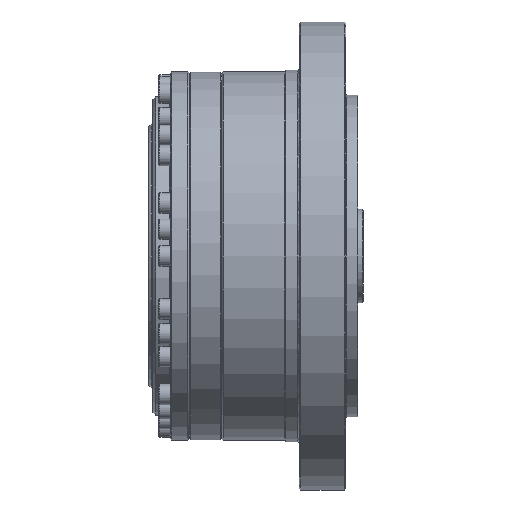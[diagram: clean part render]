
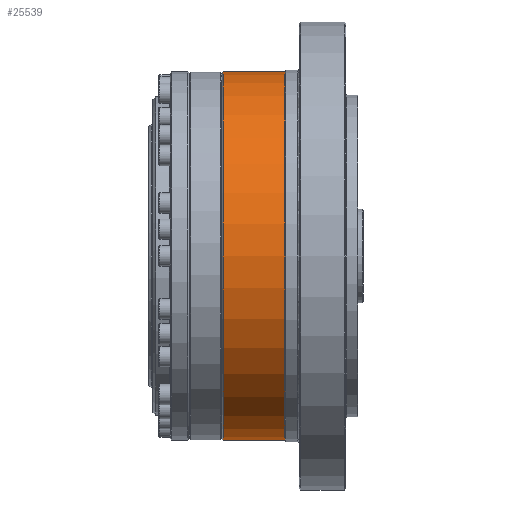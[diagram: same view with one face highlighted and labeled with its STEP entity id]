
A CAD part, front view. The second image highlights one B-rep face of the part: STEP entity #25539.
In plain terms, the highlighted cylindrical face has radius 63 mm (diameter 126 mm), a full revolution.
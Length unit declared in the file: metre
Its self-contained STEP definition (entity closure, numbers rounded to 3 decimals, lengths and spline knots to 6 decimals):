
#1128 = AXIS2_PLACEMENT_3D ( 'NONE', #17874, #2276, #28048 ) ;
#2276 = DIRECTION ( 'NONE',  ( 1., 0., 0. ) ) ;
#9605 = AXIS2_PLACEMENT_3D ( 'NONE', #18369, #15223, #28122 ) ;
#10054 = FACE_OUTER_BOUND ( 'NONE', #13665, .T. ) ;
#12770 = ORIENTED_EDGE ( 'NONE', *, *, #17723, .T. ) ;
#13665 = EDGE_LOOP ( 'NONE', ( #16047 ) ) ;
#14253 = DIRECTION ( 'NONE',  ( 0., 0., 1. ) ) ;
#15223 = DIRECTION ( 'NONE',  ( 1., 0., 0. ) ) ;
#16047 = ORIENTED_EDGE ( 'NONE', *, *, #35886, .F. ) ;
#16093 = EDGE_LOOP ( 'NONE', ( #12770 ) ) ;
#16195 = CARTESIAN_POINT ( 'NONE',  ( 0.0027, 0., -0.063 ) ) ;
#16597 = VERTEX_POINT ( 'NONE', #16195 ) ;
#17723 = EDGE_CURVE ( 'NONE', #32644, #32644, #19950, .T. ) ;
#17874 = CARTESIAN_POINT ( 'NONE',  ( -0.0183, 0., 0. ) ) ;
#18369 = CARTESIAN_POINT ( 'NONE',  ( 0.0027, 0., 0. ) ) ;
#19950 = CIRCLE ( 'NONE', #1128, 0.063 ) ;
#21040 = CIRCLE ( 'NONE', #9605, 0.063 ) ;
#23338 = FACE_OUTER_BOUND ( 'NONE', #16093, .T. ) ;
#25539 = ADVANCED_FACE ( 'NONE', ( #23338, #10054 ), #32672, .T. ) ;
#26674 = AXIS2_PLACEMENT_3D ( 'NONE', #29912, #30333, #14253 ) ;
#28048 = DIRECTION ( 'NONE',  ( 0., 0., 1. ) ) ;
#28122 = DIRECTION ( 'NONE',  ( 0., 0., -1. ) ) ;
#29885 = CARTESIAN_POINT ( 'NONE',  ( -0.0183, 0., 0.063 ) ) ;
#29912 = CARTESIAN_POINT ( 'NONE',  ( -0.022, 0., 0. ) ) ;
#30333 = DIRECTION ( 'NONE',  ( -1., 0., 0. ) ) ;
#32644 = VERTEX_POINT ( 'NONE', #29885 ) ;
#32672 = CYLINDRICAL_SURFACE ( 'NONE', #26674, 0.063 ) ;
#35886 = EDGE_CURVE ( 'NONE', #16597, #16597, #21040, .T. ) ;
